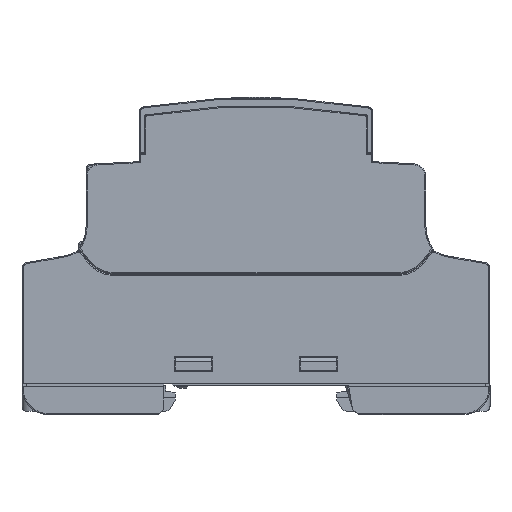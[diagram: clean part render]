
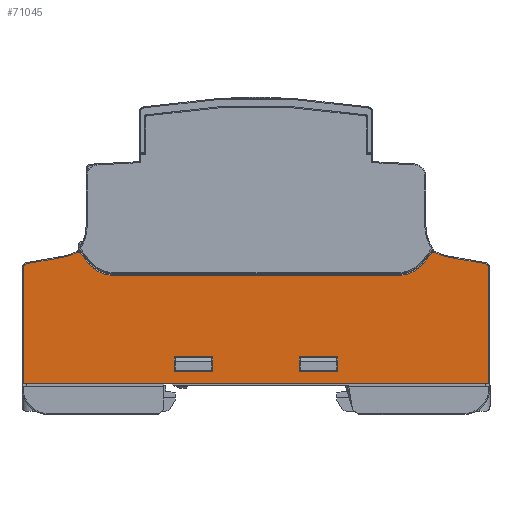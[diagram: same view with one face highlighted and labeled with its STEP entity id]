
A CAD part, left-side view. The second image highlights one B-rep face of the part: STEP entity #71045.
In plain terms, the highlighted planar face has unit normal (-1, 0, 0).
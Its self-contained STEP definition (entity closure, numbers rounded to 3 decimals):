
#2799=DIRECTION('',(0.,1.,0.));
#2800=VECTOR('',#2799,89.6);
#2801=CARTESIAN_POINT('',(-62.3,-44.8,5.9));
#2802=LINE('',#2801,#2800);
#6571=DIRECTION('',(0.,0.,-1.));
#6572=VECTOR('',#6571,22.361);
#6573=CARTESIAN_POINT('',(-62.3,44.8,28.261));
#6574=LINE('',#6573,#6572);
#6578=CARTESIAN_POINT('',(-62.3,44.,28.261));
#6579=DIRECTION('',(-1.,0.,0.));
#6580=DIRECTION('',(0.,0.174,0.985));
#6581=AXIS2_PLACEMENT_3D('',#6578,#6579,#6580);
#6586=DIRECTION('',(0.,0.985,-0.174));
#6587=VECTOR('',#6586,6.963);
#6588=CARTESIAN_POINT('',(-62.3,37.282,30.258));
#6589=LINE('',#6588,#6587);
#6593=CARTESIAN_POINT('',(-62.3,39.053,40.303));
#6594=DIRECTION('',(1.,0.,0.));
#6595=DIRECTION('',(0.,-0.464,-0.886));
#6596=AXIS2_PLACEMENT_3D('',#6593,#6594,#6595);
#6601=CARTESIAN_POINT('',(-62.3,34.184,31.));
#6602=DIRECTION('',(-1.,0.,0.));
#6603=DIRECTION('',(0.,-0.766,0.643));
#6604=AXIS2_PLACEMENT_3D('',#6601,#6602,#6603);
#6609=DIRECTION('',(0.,0.643,0.766));
#6610=VECTOR('',#6609,2.937);
#6611=CARTESIAN_POINT('',(-62.3,32.067,28.943));
#6612=LINE('',#6611,#6610);
#6616=CARTESIAN_POINT('',(-62.3,27.47,32.8));
#6617=DIRECTION('',(1.,0.,0.));
#6618=DIRECTION('',(0.,0.,-1.));
#6619=AXIS2_PLACEMENT_3D('',#6616,#6617,#6618);
#6624=DIRECTION('',(0.,1.,0.));
#6625=VECTOR('',#6624,54.941);
#6626=CARTESIAN_POINT('',(-62.3,-27.47,26.8));
#6627=LINE('',#6626,#6625);
#6631=CARTESIAN_POINT('',(-62.3,-27.47,32.8));
#6632=DIRECTION('',(1.,0.,0.));
#6633=DIRECTION('',(0.,-0.766,-0.643));
#6634=AXIS2_PLACEMENT_3D('',#6631,#6632,#6633);
#6639=DIRECTION('',(0.,0.643,-0.766));
#6640=VECTOR('',#6639,2.937);
#6641=CARTESIAN_POINT('',(-62.3,-33.954,31.193));
#6642=LINE('',#6641,#6640);
#6646=CARTESIAN_POINT('',(-62.3,-34.184,31.));
#6647=DIRECTION('',(-1.,0.,0.));
#6648=DIRECTION('',(0.,-0.464,0.886));
#6649=AXIS2_PLACEMENT_3D('',#6646,#6647,#6648);
#6654=CARTESIAN_POINT('',(-62.3,-39.053,40.303));
#6655=DIRECTION('',(1.,0.,0.));
#6656=DIRECTION('',(0.,0.174,-0.985));
#6657=AXIS2_PLACEMENT_3D('',#6654,#6655,#6656);
#6662=DIRECTION('',(0.,0.985,0.174));
#6663=VECTOR('',#6662,6.963);
#6664=CARTESIAN_POINT('',(-62.3,-44.139,29.049));
#6665=LINE('',#6664,#6663);
#6669=CARTESIAN_POINT('',(-62.3,-44.,28.261));
#6670=DIRECTION('',(-1.,0.,0.));
#6671=DIRECTION('',(0.,-1.,0.));
#6672=AXIS2_PLACEMENT_3D('',#6669,#6670,#6671);
#6677=DIRECTION('',(0.,0.,1.));
#6678=VECTOR('',#6677,22.361);
#6679=CARTESIAN_POINT('',(-62.3,-44.8,5.9));
#6680=LINE('',#6679,#6678);
#6684=DIRECTION('',(0.,0.,1.));
#6685=VECTOR('',#6684,2.8);
#6686=CARTESIAN_POINT('',(-62.3,15.7,8.3));
#6687=LINE('',#6686,#6685);
#6691=DIRECTION('',(0.,1.,0.));
#6692=VECTOR('',#6691,7.4);
#6693=CARTESIAN_POINT('',(-62.3,8.3,8.3));
#6694=LINE('',#6693,#6692);
#6698=DIRECTION('',(0.,0.,-1.));
#6699=VECTOR('',#6698,2.8);
#6700=CARTESIAN_POINT('',(-62.3,8.3,11.1));
#6701=LINE('',#6700,#6699);
#6705=DIRECTION('',(0.,-1.,0.));
#6706=VECTOR('',#6705,7.4);
#6707=CARTESIAN_POINT('',(-62.3,15.7,11.1));
#6708=LINE('',#6707,#6706);
#6712=DIRECTION('',(0.,0.,1.));
#6713=VECTOR('',#6712,2.8);
#6714=CARTESIAN_POINT('',(-62.3,-8.3,8.3));
#6715=LINE('',#6714,#6713);
#6719=DIRECTION('',(0.,1.,0.));
#6720=VECTOR('',#6719,7.4);
#6721=CARTESIAN_POINT('',(-62.3,-15.7,8.3));
#6722=LINE('',#6721,#6720);
#6726=DIRECTION('',(0.,0.,-1.));
#6727=VECTOR('',#6726,2.8);
#6728=CARTESIAN_POINT('',(-62.3,-15.7,11.1));
#6729=LINE('',#6728,#6727);
#6733=DIRECTION('',(0.,-1.,0.));
#6734=VECTOR('',#6733,7.4);
#6735=CARTESIAN_POINT('',(-62.3,-8.3,11.1));
#6736=LINE('',#6735,#6734);
#60277=CARTESIAN_POINT('',(-62.3,44.8,28.261));
#60278=CARTESIAN_POINT('',(-62.3,44.8,5.9));
#60279=VERTEX_POINT('',#60277);
#60280=VERTEX_POINT('',#60278);
#60281=CARTESIAN_POINT('',(-62.3,44.139,29.049));
#60282=VERTEX_POINT('',#60281);
#60285=CARTESIAN_POINT('',(-62.3,37.282,30.258));
#60286=VERTEX_POINT('',#60285);
#60289=CARTESIAN_POINT('',(-62.3,34.323,31.266));
#60290=VERTEX_POINT('',#60289);
#60293=CARTESIAN_POINT('',(-62.3,33.954,31.193));
#60294=VERTEX_POINT('',#60293);
#60295=CARTESIAN_POINT('',(-62.3,32.067,28.943));
#60296=VERTEX_POINT('',#60295);
#60301=CARTESIAN_POINT('',(-62.3,27.47,26.8));
#60302=VERTEX_POINT('',#60301);
#60305=CARTESIAN_POINT('',(-62.3,-27.47,26.8));
#60306=VERTEX_POINT('',#60305);
#60309=CARTESIAN_POINT('',(-62.3,-32.067,28.943));
#60310=VERTEX_POINT('',#60309);
#60313=CARTESIAN_POINT('',(-62.3,-33.954,31.193));
#60314=VERTEX_POINT('',#60313);
#60317=CARTESIAN_POINT('',(-62.3,-34.323,31.266));
#60318=VERTEX_POINT('',#60317);
#60319=CARTESIAN_POINT('',(-62.3,-37.282,30.258));
#60320=VERTEX_POINT('',#60319);
#60325=CARTESIAN_POINT('',(-62.3,-44.139,29.049));
#60326=VERTEX_POINT('',#60325);
#60329=CARTESIAN_POINT('',(-62.3,-44.8,28.261));
#60330=VERTEX_POINT('',#60329);
#60333=CARTESIAN_POINT('',(-62.3,-44.8,5.9));
#60334=VERTEX_POINT('',#60333);
#60409=CARTESIAN_POINT('',(-62.3,15.7,8.3));
#60410=CARTESIAN_POINT('',(-62.3,15.7,11.1));
#60411=VERTEX_POINT('',#60409);
#60412=VERTEX_POINT('',#60410);
#60413=CARTESIAN_POINT('',(-62.3,8.3,11.1));
#60414=VERTEX_POINT('',#60413);
#60415=CARTESIAN_POINT('',(-62.3,8.3,8.3));
#60416=VERTEX_POINT('',#60415);
#60417=CARTESIAN_POINT('',(-62.3,-8.3,8.3));
#60418=CARTESIAN_POINT('',(-62.3,-8.3,11.1));
#60419=VERTEX_POINT('',#60417);
#60420=VERTEX_POINT('',#60418);
#60421=CARTESIAN_POINT('',(-62.3,-15.7,11.1));
#60422=VERTEX_POINT('',#60421);
#60423=CARTESIAN_POINT('',(-62.3,-15.7,8.3));
#60424=VERTEX_POINT('',#60423);
#70989=CARTESIAN_POINT('',(-62.3,0.,9.9));
#70990=DIRECTION('',(1.,0.,0.));
#70991=DIRECTION('',(0.,1.,0.));
#70992=AXIS2_PLACEMENT_3D('',#70989,#70990,#70991);
#70993=PLANE('',#70992);
#70994=ORIENTED_EDGE('',*,*,#70968,.F.);
#70995=ORIENTED_EDGE('',*,*,#70979,.F.);
#70997=ORIENTED_EDGE('',*,*,#70996,.F.);
#70999=ORIENTED_EDGE('',*,*,#70998,.F.);
#71001=ORIENTED_EDGE('',*,*,#71000,.F.);
#71003=ORIENTED_EDGE('',*,*,#71002,.F.);
#71005=ORIENTED_EDGE('',*,*,#71004,.F.);
#71007=ORIENTED_EDGE('',*,*,#71006,.F.);
#71009=ORIENTED_EDGE('',*,*,#71008,.F.);
#71011=ORIENTED_EDGE('',*,*,#71010,.F.);
#71013=ORIENTED_EDGE('',*,*,#71012,.F.);
#71015=ORIENTED_EDGE('',*,*,#71014,.F.);
#71017=ORIENTED_EDGE('',*,*,#71016,.F.);
#71019=ORIENTED_EDGE('',*,*,#71018,.F.);
#71021=ORIENTED_EDGE('',*,*,#71020,.F.);
#71022=ORIENTED_EDGE('',*,*,#67971,.T.);
#71023=EDGE_LOOP('',(#70994,#70995,#70997,#70999,#71001,#71003,#71005,#71007,
#71009,#71011,#71013,#71015,#71017,#71019,#71021,#71022));
#71024=FACE_OUTER_BOUND('',#71023,.F.);
#71026=ORIENTED_EDGE('',*,*,#71025,.F.);
#71028=ORIENTED_EDGE('',*,*,#71027,.F.);
#71030=ORIENTED_EDGE('',*,*,#71029,.F.);
#71032=ORIENTED_EDGE('',*,*,#71031,.F.);
#71033=EDGE_LOOP('',(#71026,#71028,#71030,#71032));
#71034=FACE_BOUND('',#71033,.F.);
#71036=ORIENTED_EDGE('',*,*,#71035,.F.);
#71038=ORIENTED_EDGE('',*,*,#71037,.F.);
#71040=ORIENTED_EDGE('',*,*,#71039,.F.);
#71042=ORIENTED_EDGE('',*,*,#71041,.F.);
#71043=EDGE_LOOP('',(#71036,#71038,#71040,#71042));
#71044=FACE_BOUND('',#71043,.F.);
#6582=CIRCLE('',#6581,0.8);
#6597=CIRCLE('',#6596,10.2);
#6605=CIRCLE('',#6604,0.3);
#6620=CIRCLE('',#6619,6.);
#6635=CIRCLE('',#6634,6.);
#6650=CIRCLE('',#6649,0.3);
#6658=CIRCLE('',#6657,10.2);
#6673=CIRCLE('',#6672,0.8);
#67971=EDGE_CURVE('',#60334,#60280,#2802,.T.);
#70968=EDGE_CURVE('',#60279,#60280,#6574,.T.);
#70979=EDGE_CURVE('',#60282,#60279,#6582,.T.);
#70996=EDGE_CURVE('',#60286,#60282,#6589,.T.);
#70998=EDGE_CURVE('',#60290,#60286,#6597,.T.);
#71000=EDGE_CURVE('',#60294,#60290,#6605,.T.);
#71002=EDGE_CURVE('',#60296,#60294,#6612,.T.);
#71004=EDGE_CURVE('',#60302,#60296,#6620,.T.);
#71006=EDGE_CURVE('',#60306,#60302,#6627,.T.);
#71008=EDGE_CURVE('',#60310,#60306,#6635,.T.);
#71010=EDGE_CURVE('',#60314,#60310,#6642,.T.);
#71012=EDGE_CURVE('',#60318,#60314,#6650,.T.);
#71014=EDGE_CURVE('',#60320,#60318,#6658,.T.);
#71016=EDGE_CURVE('',#60326,#60320,#6665,.T.);
#71018=EDGE_CURVE('',#60330,#60326,#6673,.T.);
#71020=EDGE_CURVE('',#60334,#60330,#6680,.T.);
#71025=EDGE_CURVE('',#60411,#60412,#6687,.T.);
#71027=EDGE_CURVE('',#60416,#60411,#6694,.T.);
#71029=EDGE_CURVE('',#60414,#60416,#6701,.T.);
#71031=EDGE_CURVE('',#60412,#60414,#6708,.T.);
#71035=EDGE_CURVE('',#60419,#60420,#6715,.T.);
#71037=EDGE_CURVE('',#60424,#60419,#6722,.T.);
#71039=EDGE_CURVE('',#60422,#60424,#6729,.T.);
#71041=EDGE_CURVE('',#60420,#60422,#6736,.T.);
#71045=ADVANCED_FACE('',(#71024,#71034,#71044),#70993,.F.);
